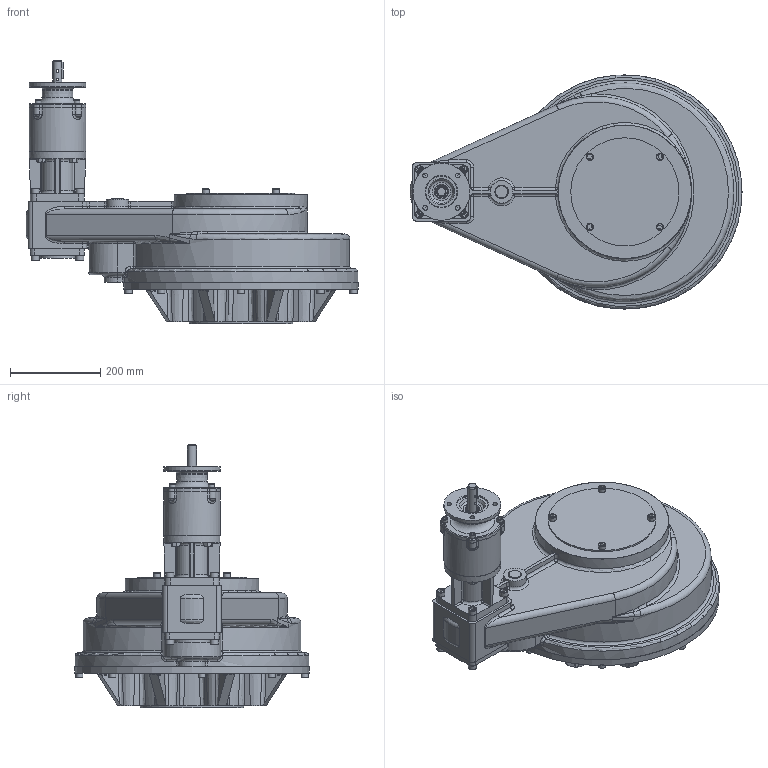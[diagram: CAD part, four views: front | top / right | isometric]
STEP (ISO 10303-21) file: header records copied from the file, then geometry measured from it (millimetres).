
FILE_DESCRIPTION( ( 'Unknown' ), '1' );
FILE_NAME( 'X:/CURRENT/PUB/Hos/HOS 2015/HOS-MPR/HOS-MPR-Models/PUB-HOS12MPR4-63.3-E-F30.stp', 'Unknown', ( 'Unknown' ), ( 'Unknown' ), 'PSStep 16.0.42', 'Unknown', ' ' );
FILE_SCHEMA( ( 'AUTOMOTIVE_DESIGN { 1 0 10303 214 1 1 1 1 }' ) );
Length unit declared in the file: millimetre
Products named in the file (45): 1; 2; 3; 4; 5; 6; 7; 8; 9; 10; 11; 12; 13; 14; 15; 16; 17; 18; 19; 20; 21; 22; 23; 24; 25; 26; trelleborg_trea00200-n7mm_b5c67wtxxcj74kwnwb2box077_01; 27; 28; 29; 30; 31; 32; 33; 34; 35; 36; 37; 38; 39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
Bounding box: 736.7 x 520 x 585.6 mm (x, y, z)
Surface area: 1363279.6 mm2 (no closed solid volume)
Topology: 0 solids, 989 shells, 989 faces, 4635 edges, 4459 vertices
Faces by surface type: plane 336, cylinder 223, bspline 145, torus 118, cone 107, sphere 60
Full cylindrical faces by diameter (mm): 6 x2, 10.5 x4, 13.27 x4, 16 x12, 17.5 x8, 18 x8, 20 x1, 39.95 x1, 50 x1, 70 x1, 80 x1, 125 x1, 126 x1, 130.175 x1, 229.95 x1, 239.95 x1, 240 x1, 296 x1, 520 x1
Entity records: 84048 total; most frequent: CARTESIAN_POINT 42643, DIRECTION 6881, VERTEX_POINT 4410, ORIENTED_EDGE 4402, EDGE_CURVE 4402, AXIS2_PLACEMENT_3D 2604, CIRCLE 1699, LINE 1673
